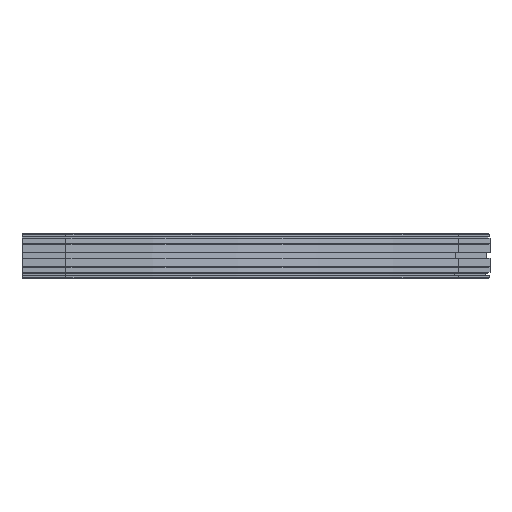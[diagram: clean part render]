
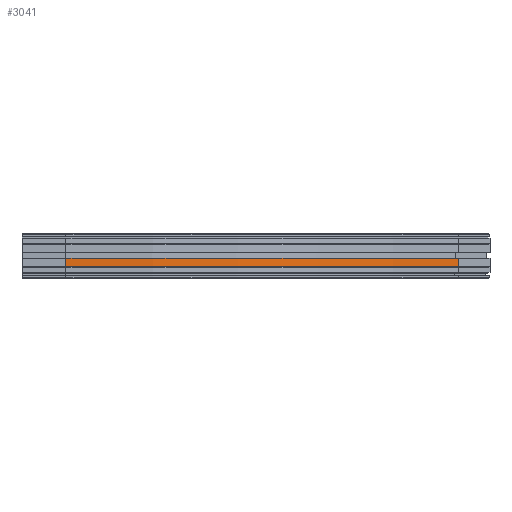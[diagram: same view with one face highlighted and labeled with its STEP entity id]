
A CAD part, front view. The second image highlights one B-rep face of the part: STEP entity #3041.
In plain terms, the highlighted cylindrical face has radius 1012 mm (diameter 2024 mm), a partial arc.
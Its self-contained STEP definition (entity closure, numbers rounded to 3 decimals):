
#29=CYLINDRICAL_SURFACE('',#3222,1012.);
#59=CIRCLE('',#3221,1012.);
#60=CIRCLE('',#3223,1012.);
#229=FACE_OUTER_BOUND('',#399,.T.);
#399=EDGE_LOOP('',(#2278,#2279,#2280,#2281));
#574=LINE('',#4636,#932);
#687=LINE('',#4893,#1045);
#932=VECTOR('',#3503,10.);
#1045=VECTOR('',#3704,10.);
#1286=VERTEX_POINT('',#4629);
#1288=VERTEX_POINT('',#4635);
#1387=VERTEX_POINT('',#4888);
#1388=VERTEX_POINT('',#4892);
#1604=EDGE_CURVE('',#1288,#1286,#574,.T.);
#1724=EDGE_CURVE('',#1387,#1286,#59,.T.);
#1725=EDGE_CURVE('',#1388,#1387,#687,.T.);
#1726=EDGE_CURVE('',#1388,#1288,#60,.T.);
#2278=ORIENTED_EDGE('',*,*,#1725,.T.);
#2279=ORIENTED_EDGE('',*,*,#1724,.T.);
#2280=ORIENTED_EDGE('',*,*,#1604,.F.);
#2281=ORIENTED_EDGE('',*,*,#1726,.F.);
#3041=ADVANCED_FACE('',(#229),#29,.T.);
#3221=AXIS2_PLACEMENT_3D('',#4890,#3700,#3701);
#3222=AXIS2_PLACEMENT_3D('',#4891,#3702,#3703);
#3223=AXIS2_PLACEMENT_3D('',#4894,#3705,#3706);
#3503=DIRECTION('',(0.,0.,-1.));
#3700=DIRECTION('center_axis',(0.,0.,1.));
#3701=DIRECTION('ref_axis',(0.,-1.,0.));
#3702=DIRECTION('center_axis',(0.,0.,1.));
#3703=DIRECTION('ref_axis',(0.,-1.,0.));
#3704=DIRECTION('',(0.,0.,-1.));
#3705=DIRECTION('center_axis',(0.,0.,1.));
#3706=DIRECTION('ref_axis',(0.,-1.,0.));
#4629=CARTESIAN_POINT('',(715.592,184.408,-60.));
#4635=CARTESIAN_POINT('',(715.592,184.408,-45.));
#4636=CARTESIAN_POINT('',(715.592,184.408,-60.));
#4888=CARTESIAN_POINT('',(0.,-112.,-60.));
#4890=CARTESIAN_POINT('Origin',(0.,900.,-60.));
#4891=CARTESIAN_POINT('Origin',(0.,900.,-52.5));
#4892=CARTESIAN_POINT('',(0.,-112.,-45.));
#4893=CARTESIAN_POINT('',(0.,-112.,-60.));
#4894=CARTESIAN_POINT('Origin',(0.,900.,-45.));
